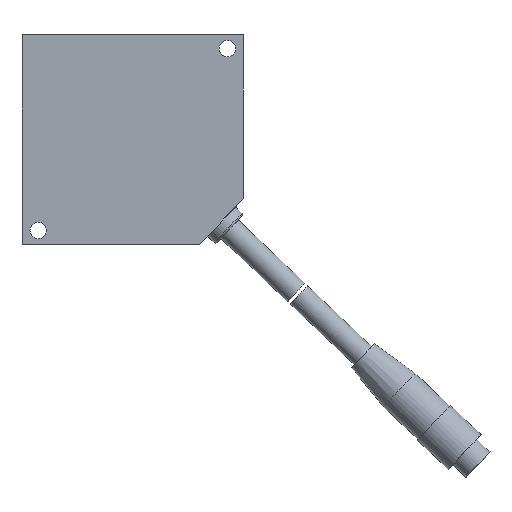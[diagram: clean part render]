
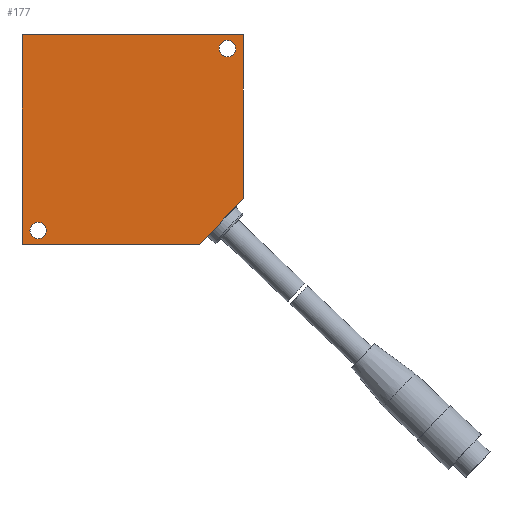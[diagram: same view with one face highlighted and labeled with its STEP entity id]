
A CAD part, left-side view. The second image highlights one B-rep face of the part: STEP entity #177.
In plain terms, the highlighted planar face has unit normal (-1, 0, 0).
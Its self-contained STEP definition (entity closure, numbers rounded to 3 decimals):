
#68 = VERTEX_POINT ( 'NONE', #997 ) ;
#70 = EDGE_CURVE ( 'NONE', #198, #68, #996, .T. ) ;
#148 = EDGE_CURVE ( 'NONE', #149, #150, #1114, .T. ) ;
#149 = VERTEX_POINT ( 'NONE', #1110 ) ;
#150 = VERTEX_POINT ( 'NONE', #1109 ) ;
#177 = ADVANCED_FACE ( 'NONE', ( #1182, #1181, #1180 ), #1179, .F. ) ;
#178 = EDGE_LOOP ( 'NONE', ( #179, #245 ) ) ;
#179 = ORIENTED_EDGE ( 'NONE', *, *, #180, .T. ) ;
#180 = EDGE_CURVE ( 'NONE', #316, #315, #1174, .T. ) ;
#182 = VERTEX_POINT ( 'NONE', #1169 ) ;
#198 = VERTEX_POINT ( 'NONE', #1217 ) ;
#227 = EDGE_CURVE ( 'NONE', #198, #149, #1287, .T. ) ;
#234 = EDGE_CURVE ( 'NONE', #150, #182, #1270, .T. ) ;
#245 = ORIENTED_EDGE ( 'NONE', *, *, #314, .T. ) ;
#246 = EDGE_LOOP ( 'NONE', ( #247, #249 ) ) ;
#247 = ORIENTED_EDGE ( 'NONE', *, *, #248, .T. ) ;
#248 = EDGE_CURVE ( 'NONE', #330, #329, #1325, .T. ) ;
#249 = ORIENTED_EDGE ( 'NONE', *, *, #328, .T. ) ;
#250 = EDGE_LOOP ( 'NONE', ( #251, #252, #253, #254, #255 ) ) ;
#251 = ORIENTED_EDGE ( 'NONE', *, *, #227, .F. ) ;
#252 = ORIENTED_EDGE ( 'NONE', *, *, #70, .T. ) ;
#253 = ORIENTED_EDGE ( 'NONE', *, *, #294, .F. ) ;
#254 = ORIENTED_EDGE ( 'NONE', *, *, #234, .F. ) ;
#255 = ORIENTED_EDGE ( 'NONE', *, *, #148, .F. ) ;
#294 = EDGE_CURVE ( 'NONE', #182, #68, #1365, .T. ) ;
#314 = EDGE_CURVE ( 'NONE', #315, #316, #1398, .T. ) ;
#315 = VERTEX_POINT ( 'NONE', #1394 ) ;
#316 = VERTEX_POINT ( 'NONE', #1393 ) ;
#328 = EDGE_CURVE ( 'NONE', #329, #330, #1435, .T. ) ;
#329 = VERTEX_POINT ( 'NONE', #1431 ) ;
#330 = VERTEX_POINT ( 'NONE', #1430 ) ;
#993 = DIRECTION ( 'NONE',  ( 0., -0.688, 0.726 ) ) ;
#994 = VECTOR ( 'NONE', #993, 1000. ) ;
#995 = CARTESIAN_POINT ( 'NONE',  ( -10.2, -35.67, -57. ) ) ;
#996 = LINE ( 'NONE', #995, #994 ) ;
#997 = CARTESIAN_POINT ( 'NONE',  ( -10.2, -47.5, -44.514 ) ) ;
#1109 = CARTESIAN_POINT ( 'NONE',  ( -10.2, 12.5, 0. ) ) ;
#1110 = CARTESIAN_POINT ( 'NONE',  ( -10.2, 12.5, -57. ) ) ;
#1111 = DIRECTION ( 'NONE',  ( 0., 0., 1. ) ) ;
#1112 = VECTOR ( 'NONE', #1111, 1000. ) ;
#1113 = CARTESIAN_POINT ( 'NONE',  ( -10.2, 12.5, 0. ) ) ;
#1114 = LINE ( 'NONE', #1113, #1112 ) ;
#1169 = CARTESIAN_POINT ( 'NONE',  ( -10.2, -47.5, 0. ) ) ;
#1170 = DIRECTION ( 'NONE',  ( 0., 0., -1. ) ) ;
#1171 = DIRECTION ( 'NONE',  ( 1., 0., 0. ) ) ;
#1172 = CARTESIAN_POINT ( 'NONE',  ( -10.2, 8.2, -53.2 ) ) ;
#1173 = AXIS2_PLACEMENT_3D ( 'NONE', #1172, #1171, #1170 ) ;
#1174 = CIRCLE ( 'NONE', #1173, 2.25 ) ;
#1175 = DIRECTION ( 'NONE',  ( 0., 0., -1. ) ) ;
#1176 = DIRECTION ( 'NONE',  ( 1., 0., 0. ) ) ;
#1177 = CARTESIAN_POINT ( 'NONE',  ( -10.2, -47.5, 0. ) ) ;
#1178 = AXIS2_PLACEMENT_3D ( 'NONE', #1177, #1176, #1175 ) ;
#1179 = PLANE ( 'NONE',  #1178 ) ;
#1180 = FACE_OUTER_BOUND ( 'NONE', #250, .T. ) ;
#1181 = FACE_BOUND ( 'NONE', #246, .T. ) ;
#1182 = FACE_BOUND ( 'NONE', #178, .T. ) ;
#1217 = CARTESIAN_POINT ( 'NONE',  ( -10.2, -35.67, -57. ) ) ;
#1267 = DIRECTION ( 'NONE',  ( 0., -1., 0. ) ) ;
#1268 = VECTOR ( 'NONE', #1267, 1000. ) ;
#1269 = CARTESIAN_POINT ( 'NONE',  ( -10.2, 12.5, 0. ) ) ;
#1270 = LINE ( 'NONE', #1269, #1268 ) ;
#1284 = DIRECTION ( 'NONE',  ( 0., 1., 0. ) ) ;
#1285 = VECTOR ( 'NONE', #1284, 1000. ) ;
#1286 = CARTESIAN_POINT ( 'NONE',  ( -10.2, 12.5, -57. ) ) ;
#1287 = LINE ( 'NONE', #1286, #1285 ) ;
#1321 = DIRECTION ( 'NONE',  ( 0., 0., -1. ) ) ;
#1322 = DIRECTION ( 'NONE',  ( 1., 0., 0. ) ) ;
#1323 = CARTESIAN_POINT ( 'NONE',  ( -10.2, -43.2, -3.8 ) ) ;
#1324 = AXIS2_PLACEMENT_3D ( 'NONE', #1323, #1322, #1321 ) ;
#1325 = CIRCLE ( 'NONE', #1324, 2.25 ) ;
#1362 = DIRECTION ( 'NONE',  ( 0., 0., -1. ) ) ;
#1363 = VECTOR ( 'NONE', #1362, 1000. ) ;
#1364 = CARTESIAN_POINT ( 'NONE',  ( -10.2, -47.5, 0. ) ) ;
#1365 = LINE ( 'NONE', #1364, #1363 ) ;
#1393 = CARTESIAN_POINT ( 'NONE',  ( -10.2, 8.2, -55.45 ) ) ;
#1394 = CARTESIAN_POINT ( 'NONE',  ( -10.2, 8.2, -50.95 ) ) ;
#1395 = DIRECTION ( 'NONE',  ( 0., 0., -1. ) ) ;
#1396 = DIRECTION ( 'NONE',  ( 1., 0., 0. ) ) ;
#1397 = AXIS2_PLACEMENT_3D ( 'NONE', #1404, #1396, #1395 ) ;
#1398 = CIRCLE ( 'NONE', #1397, 2.25 ) ;
#1404 = CARTESIAN_POINT ( 'NONE',  ( -10.2, 8.2, -53.2 ) ) ;
#1430 = CARTESIAN_POINT ( 'NONE',  ( -10.2, -43.2, -6.05 ) ) ;
#1431 = CARTESIAN_POINT ( 'NONE',  ( -10.2, -43.2, -1.55 ) ) ;
#1432 = DIRECTION ( 'NONE',  ( 0., 0., -1. ) ) ;
#1433 = DIRECTION ( 'NONE',  ( 1., 0., 0. ) ) ;
#1434 = AXIS2_PLACEMENT_3D ( 'NONE', #1441, #1433, #1432 ) ;
#1435 = CIRCLE ( 'NONE', #1434, 2.25 ) ;
#1441 = CARTESIAN_POINT ( 'NONE',  ( -10.2, -43.2, -3.8 ) ) ;
